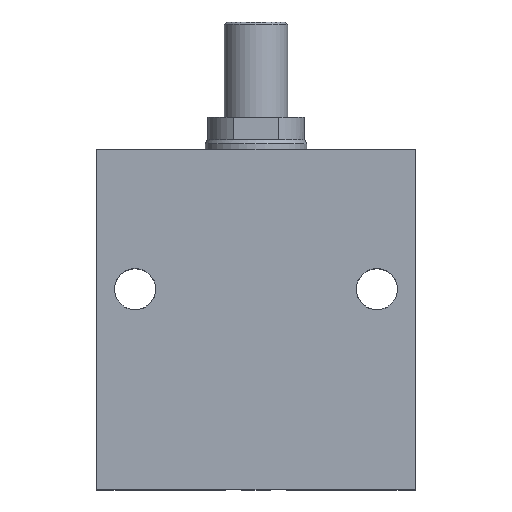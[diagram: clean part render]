
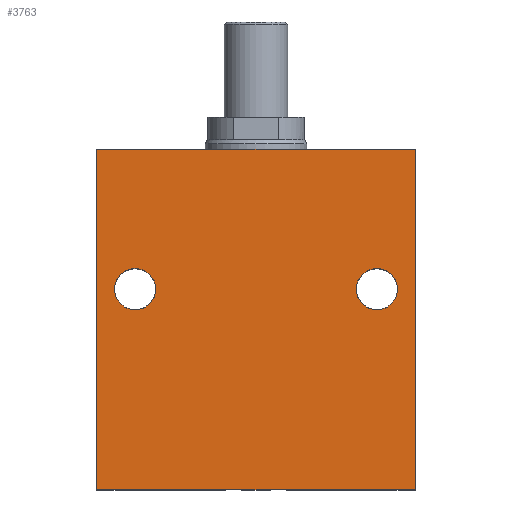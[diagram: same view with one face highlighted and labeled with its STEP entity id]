
A CAD part, top view. The second image highlights one B-rep face of the part: STEP entity #3763.
In plain terms, the highlighted planar face has unit normal (0, 0, 1).
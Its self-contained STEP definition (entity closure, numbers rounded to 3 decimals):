
#193 = ORIENTED_EDGE ( 'NONE', *, *, #2672, .F. ) ;
#659 = CARTESIAN_POINT ( 'NONE',  ( 38., 63., 37.5 ) ) ;
#689 = DIRECTION ( 'NONE',  ( 0., 0., 1. ) ) ;
#1110 = VECTOR ( 'NONE', #1752, 1000. ) ;
#1149 = CARTESIAN_POINT ( 'NONE',  ( 50., 0., 37.5 ) ) ;
#1150 = EDGE_CURVE ( 'NONE', #3994, #4123, #2543, .T. ) ;
#1163 = FACE_BOUND ( 'NONE', #3093, .T. ) ;
#1172 = ORIENTED_EDGE ( 'NONE', *, *, #1533, .F. ) ;
#1180 = AXIS2_PLACEMENT_3D ( 'NONE', #3409, #3412, #3427 ) ;
#1202 = EDGE_CURVE ( 'NONE', #1742, #3293, #3162, .T. ) ;
#1238 = AXIS2_PLACEMENT_3D ( 'NONE', #1648, #1661, #2199 ) ;
#1533 = EDGE_CURVE ( 'NONE', #3293, #1742, #2656, .T. ) ;
#1537 = VERTEX_POINT ( 'NONE', #1586 ) ;
#1584 = ORIENTED_EDGE ( 'NONE', *, *, #4062, .F. ) ;
#1586 = CARTESIAN_POINT ( 'NONE',  ( 50., 107., 37.5 ) ) ;
#1597 = VERTEX_POINT ( 'NONE', #1977 ) ;
#1648 = CARTESIAN_POINT ( 'NONE',  ( -38., 63., 37.5 ) ) ;
#1661 = DIRECTION ( 'NONE',  ( 0., 0., 1. ) ) ;
#1680 = VERTEX_POINT ( 'NONE', #2350 ) ;
#1722 = VECTOR ( 'NONE', #3712, 1000. ) ;
#1725 = VERTEX_POINT ( 'NONE', #2793 ) ;
#1742 = VERTEX_POINT ( 'NONE', #2827 ) ;
#1752 = DIRECTION ( 'NONE',  ( 1., 0., 0. ) ) ;
#1757 = CARTESIAN_POINT ( 'NONE',  ( -50., 107., 37.5 ) ) ;
#1977 = CARTESIAN_POINT ( 'NONE',  ( 31.5, 63., 37.5 ) ) ;
#1979 = AXIS2_PLACEMENT_3D ( 'NONE', #3438, #3148, #3137 ) ;
#1991 = DIRECTION ( 'NONE',  ( 1., 0., 0. ) ) ;
#2080 = ORIENTED_EDGE ( 'NONE', *, *, #3433, .F. ) ;
#2125 = ORIENTED_EDGE ( 'NONE', *, *, #1150, .T. ) ;
#2164 = CARTESIAN_POINT ( 'NONE',  ( -50., 0., 37.5 ) ) ;
#2199 = DIRECTION ( 'NONE',  ( 1., 0., 0. ) ) ;
#2206 = AXIS2_PLACEMENT_3D ( 'NONE', #3157, #3066, #3058 ) ;
#2309 = VECTOR ( 'NONE', #2627, 1000. ) ;
#2350 = CARTESIAN_POINT ( 'NONE',  ( 44.5, 63., 37.5 ) ) ;
#2543 = LINE ( 'NONE', #2969, #1722 ) ;
#2544 = CARTESIAN_POINT ( 'NONE',  ( 50., 82., 37.5 ) ) ;
#2627 = DIRECTION ( 'NONE',  ( 0., -1., 0. ) ) ;
#2656 = CIRCLE ( 'NONE', #1238, 6.5 ) ;
#2672 = EDGE_CURVE ( 'NONE', #1680, #1597, #4083, .T. ) ;
#2793 = CARTESIAN_POINT ( 'NONE',  ( -50., 107., 37.5 ) ) ;
#2827 = CARTESIAN_POINT ( 'NONE',  ( -44.5, 63., 37.5 ) ) ;
#2880 = FACE_OUTER_BOUND ( 'NONE', #3708, .T. ) ;
#2887 = ORIENTED_EDGE ( 'NONE', *, *, #3933, .F. ) ;
#2898 = EDGE_LOOP ( 'NONE', ( #1172, #3600 ) ) ;
#2969 = CARTESIAN_POINT ( 'NONE',  ( -50., 0., 37.5 ) ) ;
#2979 = LINE ( 'NONE', #3147, #3068 ) ;
#3058 = DIRECTION ( 'NONE',  ( -1., 0., 0. ) ) ;
#3066 = DIRECTION ( 'NONE',  ( 0., 0., -1. ) ) ;
#3068 = VECTOR ( 'NONE', #4118, 1000. ) ;
#3074 = PLANE ( 'NONE',  #2206 ) ;
#3093 = EDGE_LOOP ( 'NONE', ( #193, #2080 ) ) ;
#3111 = LINE ( 'NONE', #2544, #2309 ) ;
#3116 = CIRCLE ( 'NONE', #3582, 6.5 ) ;
#3137 = DIRECTION ( 'NONE',  ( 1., 0., 0. ) ) ;
#3147 = CARTESIAN_POINT ( 'NONE',  ( -50., 82., 37.5 ) ) ;
#3148 = DIRECTION ( 'NONE',  ( 0., 0., 1. ) ) ;
#3157 = CARTESIAN_POINT ( 'NONE',  ( -50., 82., 37.5 ) ) ;
#3162 = CIRCLE ( 'NONE', #1180, 6.5 ) ;
#3293 = VERTEX_POINT ( 'NONE', #3485 ) ;
#3409 = CARTESIAN_POINT ( 'NONE',  ( -38., 63., 37.5 ) ) ;
#3412 = DIRECTION ( 'NONE',  ( 0., 0., 1. ) ) ;
#3427 = DIRECTION ( 'NONE',  ( 1., 0., 0. ) ) ;
#3433 = EDGE_CURVE ( 'NONE', #1597, #1680, #3116, .T. ) ;
#3438 = CARTESIAN_POINT ( 'NONE',  ( 38., 63., 37.5 ) ) ;
#3485 = CARTESIAN_POINT ( 'NONE',  ( -31.5, 63., 37.5 ) ) ;
#3540 = LINE ( 'NONE', #1757, #1110 ) ;
#3582 = AXIS2_PLACEMENT_3D ( 'NONE', #659, #689, #1991 ) ;
#3600 = ORIENTED_EDGE ( 'NONE', *, *, #1202, .F. ) ;
#3643 = ORIENTED_EDGE ( 'NONE', *, *, #3760, .T. ) ;
#3708 = EDGE_LOOP ( 'NONE', ( #2125, #2887, #1584, #3643 ) ) ;
#3712 = DIRECTION ( 'NONE',  ( 1., 0., 0. ) ) ;
#3760 = EDGE_CURVE ( 'NONE', #1725, #3994, #2979, .T. ) ;
#3763 = ADVANCED_FACE ( 'NONE', ( #1163, #3889, #2880 ), #3074, .F. ) ;
#3889 = FACE_BOUND ( 'NONE', #2898, .T. ) ;
#3933 = EDGE_CURVE ( 'NONE', #1537, #4123, #3111, .T. ) ;
#3994 = VERTEX_POINT ( 'NONE', #2164 ) ;
#4062 = EDGE_CURVE ( 'NONE', #1725, #1537, #3540, .T. ) ;
#4083 = CIRCLE ( 'NONE', #1979, 6.5 ) ;
#4118 = DIRECTION ( 'NONE',  ( 0., -1., 0. ) ) ;
#4123 = VERTEX_POINT ( 'NONE', #1149 ) ;
